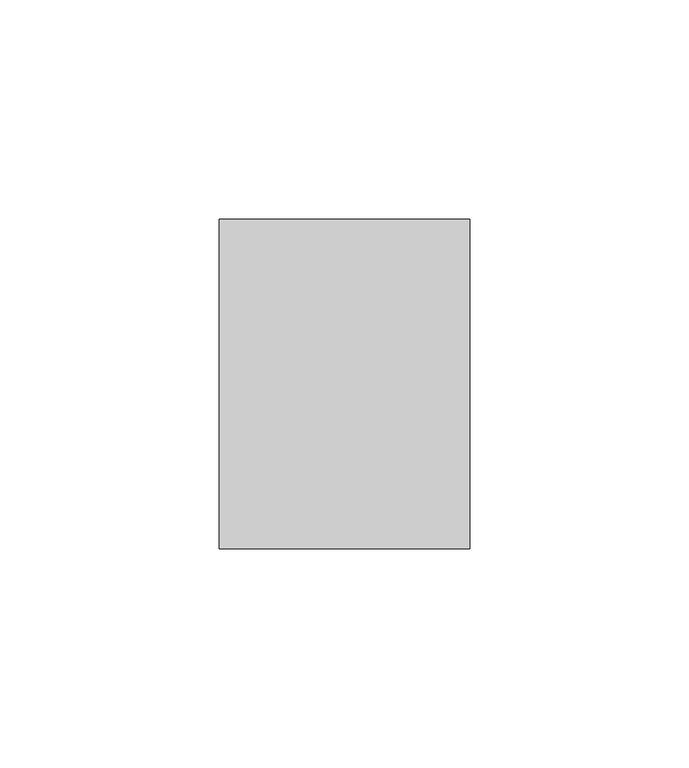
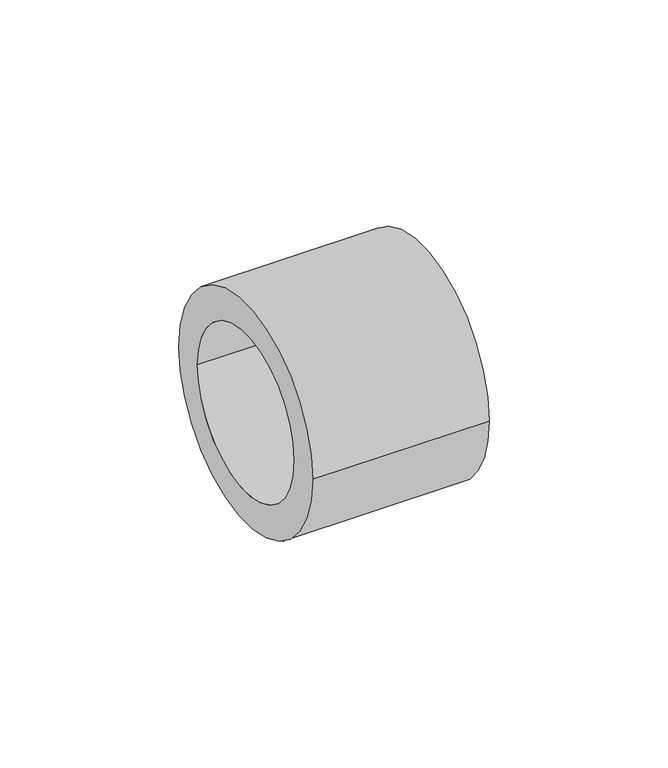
"""IFC4 building model written with IfcOpenShell, lengths in millimetres: pipe fitting geometry, NLRS_52_PIF_UN_overgangsklemkoppeling_geb : d48-210 / ø48-210."""

from ifc_helpers import new_model, si_unit, frame, origin, place, context, project, spatial, polyline, circle_curve, source, transform, mapped, element, save
from ifc_brep_helpers import plane_surface, cylinder_surface, revolved_surface, advanced_brep


def pipe_fitting_f7c1df82(model_context):
    return source(origin(), model_context, "Body", "AdvancedBrep", [
        advanced_brep(
        [(28.5, -37.5, 0.0), (28.5, 37.5, 0.0), (28.5, 27.0, 0.0), (28.5, -27.0, 0.0), (-28.5, -37.5, 0.0), (-28.5, 37.5, 0.0), (-28.5, -27.0, 0.0), (-28.5, 27.0, 0.0), (-1.5, -27.0, 0.0), (-1.5, 27.0, 0.0), (1.5, -27.0, 0.0), (1.5, 27.0, 0.0)],
        [
            (0, 1, circle_curve(frame((28.5, 0.0, 0.0), z_axis=(1.0, 0.0, 0.0), x_axis=(0.0, 1.0, 0.0)), 37.5)),
            (1, 0, circle_curve(frame((28.5, 0.0, 0.0), z_axis=(1.0, 0.0, 0.0), x_axis=(0.0, 1.0, 0.0)), 37.5)),
            (2, 3, circle_curve(frame((28.5, 0.0, 0.0), z_axis=(-1.0, 0.0, 0.0), x_axis=(0.0, 1.0, 0.0)), 27.0)),
            (3, 2, circle_curve(frame((28.5, 0.0, 0.0), z_axis=(-1.0, 0.0, 0.0), x_axis=(0.0, 1.0, 0.0)), 27.0)),
            (4, 5, circle_curve(frame((-28.5, 0.0, 0.0), z_axis=(-1.0, 0.0, 0.0), x_axis=(0.0, 1.0, 0.0)), 37.5)),
            (5, 4, circle_curve(frame((-28.5, 0.0, 0.0), z_axis=(-1.0, 0.0, 0.0), x_axis=(0.0, 1.0, 0.0)), 37.5)),
            (6, 7, circle_curve(frame((-28.5, 0.0, 0.0), z_axis=(1.0, 0.0, 0.0), x_axis=(0.0, 1.0, 0.0)), 27.0)),
            (7, 6, circle_curve(frame((-28.5, 0.0, 0.0), z_axis=(1.0, 0.0, 0.0), x_axis=(0.0, 1.0, 0.0)), 27.0)),
            (0, 4),
            (5, 1),
            (8, 9, circle_curve(frame((-1.5, 0.0, 0.0), z_axis=(-1.0, 0.0, 0.0), x_axis=(0.0, 1.0, 0.0)), 27.0)),
            (9, 8, circle_curve(frame((-1.5, 0.0, 0.0), z_axis=(-1.0, 0.0, 0.0), x_axis=(0.0, 1.0, 0.0)), 27.0)),
            (9, 7),
            (6, 8),
            (10, 11, circle_curve(frame((1.5, 0.0, 0.0), z_axis=(1.0, 0.0, 0.0), x_axis=(0.0, 1.0, 0.0)), 27.0)),
            (11, 10, circle_curve(frame((1.5, 0.0, 0.0), z_axis=(1.0, 0.0, 0.0), x_axis=(0.0, 1.0, 0.0)), 27.0)),
            (10, 3),
            (2, 11),
        ],
        [
            plane_surface(frame((28.5, 37.5, 0.0), z_axis=(1.0, 0.0, 0.0), x_axis=(0.0, 0.0, 1.0))),
            plane_surface(frame((-28.5, 37.5, 0.0), z_axis=(-1.0, 0.0, 0.0), x_axis=(0.0, 0.0, -1.0))),
            cylinder_surface(frame((-28.5, 0.0, 0.0), z_axis=(1.0, 0.0, 0.0), x_axis=(0.0, 1.0, 0.0)), 37.5),
            plane_surface(frame((-1.5, 27.0, 0.0), z_axis=(-1.0, 0.0, 0.0), x_axis=(0.0, 0.0, 1.0))),
            revolved_surface(polyline([(-1.5, 27.0, 0.0), (-28.5, 27.0, 0.0)]), (-28.5, 0.0, 0.0), (1.0, 0.0, 0.0)),
            plane_surface(frame((1.5, 27.0, 0.0), z_axis=(1.0, 0.0, 0.0), x_axis=(0.0, 0.0, -1.0))),
            revolved_surface(polyline([(28.5, 27.0, 0.0), (1.5, 27.0, 0.0)]), (1.5, 0.0, 0.0), (1.0, 0.0, 0.0)),
        ],
        [
            (0, [[1, 2], [3, 4]]),
            (1, [[5, 6], [7, 8]]),
            (2, [[-1, 9, -6, 10]]),
            (2, [[-2, -10, -5, -9]]),
            (3, [[11, 12]]),
            (4, [[-12, 13, -7, 14]]),
            (4, [[-11, -14, -8, -13]]),
            (5, [[15, 16]]),
            (6, [[-15, 17, -3, 18]]),
            (6, [[-16, -18, -4, -17]]),
        ],
    ),
    ])


if __name__ == "__main__":
    model = new_model("IFC4")
    model_context = context("Model", 3, world=origin())
    ifc_project = project(units=[si_unit("LENGTHUNIT", "METRE", prefix="MILLI")], contexts=[model_context])
    site = spatial("IfcSite", under=ifc_project)
    building = spatial("IfcBuilding", under=site)
    placement = place(None, origin())
    pipe_fitting_shape = pipe_fitting_f7c1df82(model_context)
    element("IfcPipeFitting", 1, ObjectType="NLRS_52_PIF_UN_overgangsklemkoppeling_geb : d48-210 / ø48-210", at=placement, inside=building, context=model_context, shape_type="MappedRepresentation", body=[
        mapped(pipe_fitting_shape, transform((0.0, 0.0, 0.0), x_axis=(1.0, 0.0, 0.0), y_axis=(0.0, 1.0, 0.0), z_axis=(0.0, 0.0, 1.0))),
    ])
    save(model, "model.ifc")
